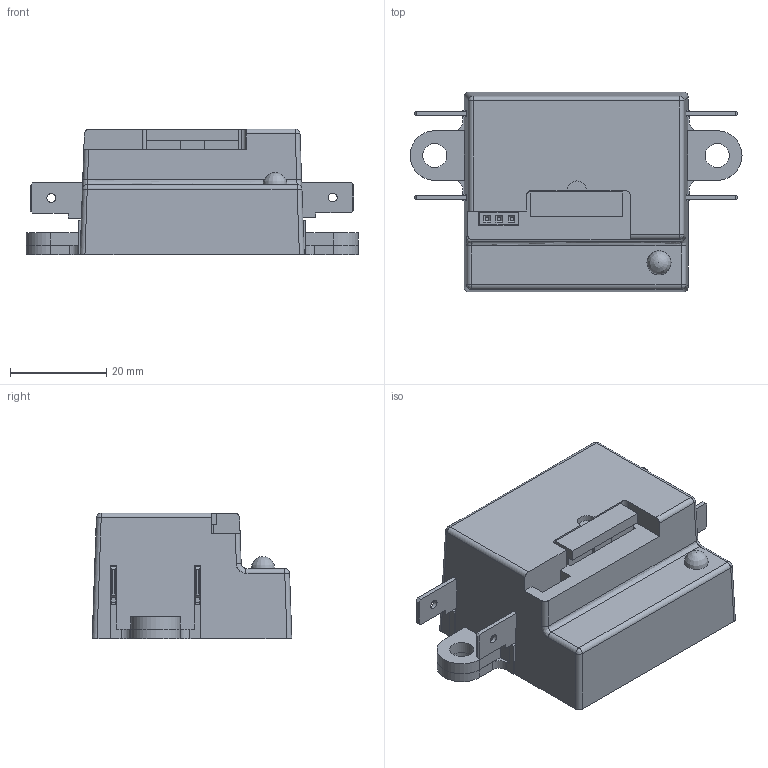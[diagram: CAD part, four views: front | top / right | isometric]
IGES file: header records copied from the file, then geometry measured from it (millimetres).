
Global section: file name: No Iges File Name specified; native system: AutoDesk Inventor R6.0; preprocessor: AutoDesk Inventor Iges Exporter R6.0; author: No Author specified; organization: No Organization specified; date: 20060106.191859; units: millimetre
Bounding box: 69 x 41.5 x 26.1 mm (x, y, z)
Surface area: 24374.1 mm2 (no closed solid volume)
Topology: 0 solids, 0 shells, 379 faces, 1955 edges, 1931 vertices
Faces by surface type: plane 302, revolution 47, bspline 30
